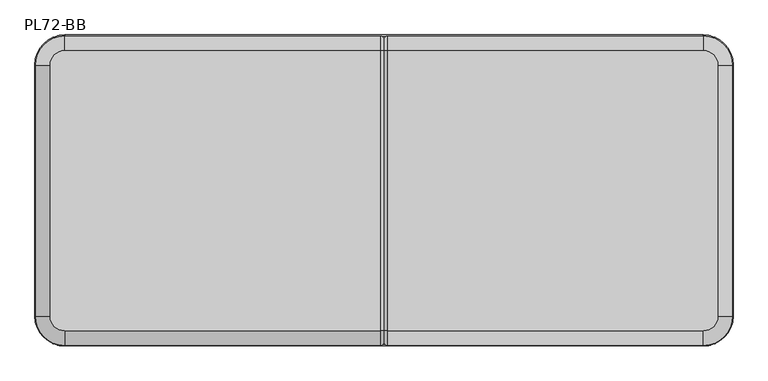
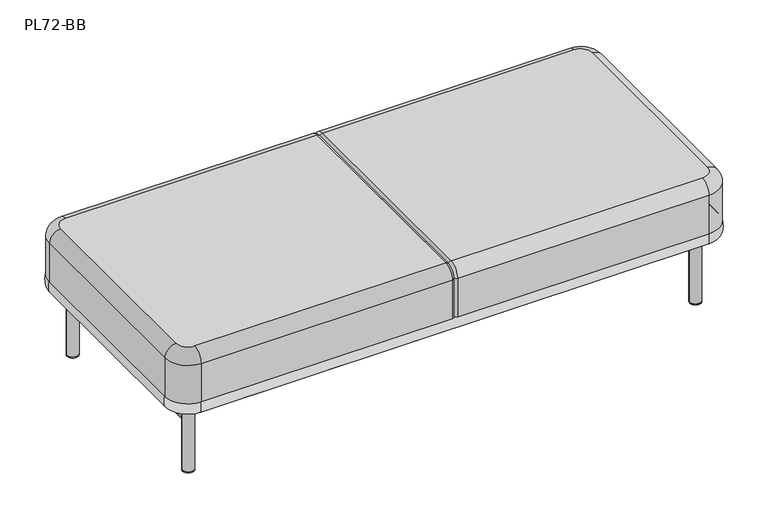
"""IFC4 building model written with IfcOpenShell, lengths in millimetres: furniture geometry, StanceHC-Podium-Lounge_Seating-72 : PL72-BB."""

from ifc_helpers import new_model, si_unit, point, frame, frame_2d, origin, origin_with_axes, place, context, project, spatial, polyline, circle_curve, ellipse_curve, trimmed, segment, composite_curve, outline, extrude, source, transform, mapped, element, save
from ifc_brep_helpers import plane_surface, cylinder_surface, revolved_surface, extruded_surface, advanced_brep


def pl72_bb_0ae3f5cb(model_context):
    return source(origin(), model_context, "Body", "SolidModel", [
        advanced_brep(
        [(1752.6, -812.8, 281.758409), (923.925, -812.8, 281.758409), (914.4, -803.275, 281.758409), (914.4, -11.1252, 281.758409), (923.925, -1.6002, 281.758409), (1752.6, -1.6002, 281.758409), (1828.8, -77.8002, 281.758409), (1828.8, -736.6, 281.758409), (1752.6, -39.7002, 453.3352811), (923.925, -39.7002, 453.3352811), (923.925, -774.7, 453.3352811), (1752.6, -774.7, 453.3352811), (1790.7, -736.6, 453.3352811), (1790.7, -77.8002, 453.3352811), (914.4, -803.275, 415.2352811), (914.4, -774.7, 443.8102811), (914.4, -39.7002, 443.8102811), (914.4, -11.1252, 415.2352811), (923.925, -1.6002, 415.2352811), (1752.6, -1.6002, 415.2352811), (1828.8, -77.8002, 415.2352811), (1828.8, -736.6, 415.2352811), (1752.6, -812.8, 415.2352811), (923.925, -812.8, 415.2352811)],
        [
            (0, 1),
            (1, 2, circle_curve(frame((923.925, -803.275, 281.758409), z_axis=(0.0, 0.0, -1.0), x_axis=(1.0, 0.0, 0.0)), 9.525)),
            (2, 3),
            (3, 4, circle_curve(frame((923.925, -11.1252, 281.758409), z_axis=(0.0, 0.0, -1.0), x_axis=(1.0, 0.0, 0.0)), 9.525)),
            (4, 5),
            (5, 6, circle_curve(frame((1752.6, -77.8002, 281.758409), z_axis=(0.0, 0.0, -1.0), x_axis=(0.0, 1.0, 0.0)), 76.2)),
            (6, 7),
            (7, 0, circle_curve(frame((1752.6, -736.6, 281.758409), z_axis=(0.0, 0.0, -1.0), x_axis=(1.0, 0.0, 0.0)), 76.2)),
            (8, 9),
            (9, 10),
            (10, 11),
            (11, 12, circle_curve(frame((1752.6, -736.6, 453.3352811), z_axis=(0.0, 0.0, 1.0), x_axis=(1.0, 0.0, 0.0)), 38.1)),
            (12, 13),
            (13, 8, circle_curve(frame((1752.6, -77.8002, 453.3352811), z_axis=(0.0, 0.0, 1.0), x_axis=(0.0, 1.0, 0.0)), 38.1)),
            (2, 14),
            (14, 15, circle_curve(frame((914.4, -774.7, 415.2352811), z_axis=(-1.0, 0.0, 0.0), x_axis=(0.0, -1.0, 1.2406627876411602e-12)), 28.575)),
            (15, 16),
            (16, 17, circle_curve(frame((914.4, -39.7002, 415.2352811), z_axis=(-1.0, 0.0, 0.0), x_axis=(0.0, 1.2558230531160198e-12, 1.0)), 28.575)),
            (17, 3),
            (4, 18),
            (18, 19),
            (19, 5),
            (19, 20, circle_curve(frame((1752.6, -77.8002, 415.2352811), z_axis=(0.0, 0.0, -1.0), x_axis=(0.0, 1.0, 0.0)), 76.2)),
            (20, 6),
            (20, 21),
            (21, 7),
            (21, 22, circle_curve(frame((1752.6, -736.6, 415.2352811), z_axis=(0.0, 0.0, -1.0), x_axis=(1.0, 0.0, 0.0)), 76.2)),
            (22, 0),
            (22, 23),
            (23, 1),
            (18, 9, circle_curve(frame((923.925, -39.7002, 415.2352811), z_axis=(1.0, 0.0, 0.0), x_axis=(0.0, -1.0, 0.0)), 38.1)),
            (8, 19, circle_curve(frame((1752.6, -39.7002, 415.2352811), z_axis=(-1.0, 0.0, 0.0), x_axis=(0.0, -1.0, 0.0)), 38.1)),
            (13, 20, circle_curve(frame((1790.7, -77.8002, 415.2352811), z_axis=(0.0, 1.0, 0.0), x_axis=(-1.0, 0.0, 0.0)), 38.1)),
            (12, 21, circle_curve(frame((1790.7, -736.6, 415.2352811), z_axis=(0.0, 1.0, 0.0), x_axis=(-1.0, 0.0, 0.0)), 38.1)),
            (11, 22, circle_curve(frame((1752.6, -774.7, 415.2352811), z_axis=(1.0, 0.0, 0.0), x_axis=(0.0, 1.0, 0.0)), 38.1)),
            (10, 23, circle_curve(frame((923.925, -774.7, 415.2352811), z_axis=(1.0, 0.0, 0.0), x_axis=(0.0, 1.0, 0.0)), 38.1)),
            (23, 14, circle_curve(frame((923.925, -803.275, 415.2352811), z_axis=(0.0, 0.0, -1.0), x_axis=(1.0, 0.0, 0.0)), 9.525)),
            (10, 15, circle_curve(frame((923.925, -774.7, 443.8102811), z_axis=(0.0, -1.0, -1.873351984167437e-12), x_axis=(1.0, 0.0, 0.0)), 9.525)),
            (9, 16, circle_curve(frame((923.925, -39.7002, 443.8102811), z_axis=(0.0, -1.0, 0.0), x_axis=(1.0, 0.0, 0.0)), 9.525)),
            (18, 17, circle_curve(frame((923.925, -11.1252, 415.2352811), z_axis=(0.0, -1.2542303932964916e-12, 1.0), x_axis=(1.0, 0.0, 0.0)), 9.525)),
        ],
        [
            plane_surface(frame((914.4, -39.7002, 281.758409), z_axis=(0.0, 0.0, -1.0), x_axis=(-1.0, 0.0, 0.0))),
            plane_surface(frame((914.4, -39.7002, 453.3352811), z_axis=(0.0, 0.0, 1.0), x_axis=(1.0, 0.0, 0.0))),
            plane_surface(frame((914.4, -39.7002, 281.758409), z_axis=(-1.0, 0.0, 0.0), x_axis=(0.0, 0.0, 1.0))),
            plane_surface(frame((914.4, -1.6002, 281.758409), z_axis=(0.0, 1.0, 0.0), x_axis=(1.0, 0.0, 0.0))),
            cylinder_surface(frame((1752.6, -77.8002, -0.257791), z_axis=(0.0, 0.0, 1.0), x_axis=(0.0, 1.0, 0.0)), 76.2),
            plane_surface(frame((1828.8, -77.8002, 281.758409), z_axis=(1.0, 0.0, 0.0), x_axis=(0.0, -1.0, 0.0))),
            cylinder_surface(frame((1752.6, -736.6, -0.257791), z_axis=(0.0, 0.0, 1.0), x_axis=(1.0, 0.0, 0.0)), 76.2),
            plane_surface(frame((1752.6, -812.8, 281.758409), z_axis=(0.0, -1.0, 0.0), x_axis=(-1.0, 0.0, 0.0))),
            cylinder_surface(frame((914.4, -39.7002, 415.2352811), z_axis=(-1.0, 0.0, 0.0), x_axis=(0.0, -1.0, 0.0)), 38.1),
            revolved_surface(trimmed(ellipse_curve(frame((1752.6, -39.7002, 415.2352811), z_axis=(1.0, 0.0, 0.0), x_axis=(0.0, -1.0, 0.0)), 38.1, 38.1), [point((1752.6, -1.6002, 415.2352811))], [point((1752.6, -39.7002, 453.3352811))], True, "CARTESIAN"), (1752.6, -77.8002, -0.257791), (0.0, 0.0, 1.0)),
            cylinder_surface(frame((1790.7, -77.8002, 415.2352811), z_axis=(0.0, 1.0, 0.0), x_axis=(-1.0, 0.0, 0.0)), 38.1),
            revolved_surface(trimmed(ellipse_curve(frame((1790.7, -736.6, 415.2352811), z_axis=(0.0, -1.0, 0.0), x_axis=(-1.0, 0.0, 0.0)), 38.1, 38.1), [point((1828.8, -736.6, 415.2352811))], [point((1790.7, -736.6, 453.3352811))], True, "CARTESIAN"), (1752.6, -736.6, -0.257791), (0.0, 0.0, 1.0)),
            cylinder_surface(frame((1752.6, -774.7, 415.2352811), z_axis=(1.0, 0.0, 0.0), x_axis=(0.0, 1.0, 0.0)), 38.1),
            cylinder_surface(frame((923.925, -803.275, 281.758409), z_axis=(0.0, 0.0, 1.0), x_axis=(1.0, 0.0, 0.0)), 9.525),
            revolved_surface(trimmed(ellipse_curve(frame((923.925, -803.275, 415.2352811), z_axis=(0.0, 1.24066278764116e-12, 1.0), x_axis=(1.0, 0.0, 0.0)), 9.525, 9.525), [point((914.4, -803.275, 415.2352811))], [point((923.925, -812.8, 415.2352811))], True, "CARTESIAN"), (914.4, -774.7, 415.2352811), (1.0, 0.0, 0.0)),
            cylinder_surface(frame((923.925, -774.7, 443.8102811), z_axis=(0.0, 1.0, 0.0), x_axis=(1.0, 0.0, 0.0)), 9.525),
            revolved_surface(trimmed(ellipse_curve(frame((923.925, -39.7002, 443.8102811), z_axis=(0.0, 1.0, -1.2558230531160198e-12), x_axis=(1.0, 0.0, 0.0)), 9.525, 9.525), [point((914.4, -39.7002, 443.8102811))], [point((923.925, -39.7002, 453.3352811))], True, "CARTESIAN"), (914.4, -39.7002, 415.2352811), (1.0, 0.0, 0.0)),
            cylinder_surface(frame((923.925, -11.1252, 415.2352811), z_axis=(0.0, 0.0, -1.0), x_axis=(1.0, 0.0, 0.0)), 9.525),
        ],
        [
            (0, [[1, 2, 3, 4, 5, 6, 7, 8]]),
            (1, [[9, 10, 11, 12, 13, 14]]),
            (2, [[15, 16, 17, 18, 19, -3]]),
            (3, [[-5, 20, 21, 22]]),
            (4, [[-22, 23, 24, -6]]),
            (5, [[-24, 25, 26, -7]]),
            (6, [[-26, 27, 28, -8]]),
            (7, [[29, 30, -1, -28]]),
            (8, [[-21, 31, -9, 32]]),
            (9, [[-32, -14, 33, -23]]),
            (10, [[-33, -13, 34, -25]]),
            (11, [[-34, -12, 35, -27]]),
            (12, [[-11, 36, -29, -35]]),
            (13, [[-15, -2, -30, 37]]),
            (14, [[-36, 38, -16, -37]]),
            (15, [[-10, 39, -17, -38]]),
            (16, [[-31, 40, -18, -39]]),
            (17, [[-20, -4, -19, -40]]),
        ],
    ),
        extrude(outline(composite_curve([segment(polyline([(866.775, -441.325), (866.775, -371.475)]), True, "CONTINUOUS"), segment(trimmed(circle_curve(frame_2d((879.475, -371.475)), 12.7), [point((866.775, -371.475))], [point((879.475, -358.775))], False, "CARTESIAN"), True, "CONTINUOUS"), segment(polyline([(879.475, -358.775), (949.325, -358.775)]), True, "CONTINUOUS"), segment(trimmed(circle_curve(frame_2d((949.325, -371.475)), 12.7), [point((949.325, -358.775))], [point((962.025, -371.475))], False, "CARTESIAN"), True, "CONTINUOUS"), segment(polyline([(962.025, -371.475), (962.025, -441.325)]), True, "CONTINUOUS"), segment(trimmed(circle_curve(frame_2d((949.325, -441.325)), 12.7), [point((962.025, -441.325))], [point((949.325, -454.025))], False, "CARTESIAN"), True, "CONTINUOUS"), segment(polyline([(949.325, -454.025), (879.475, -454.025)]), True, "CONTINUOUS"), segment(trimmed(circle_curve(frame_2d((879.475, -441.325)), 12.7), [point((879.475, -454.025))], [point((866.775, -441.325))], False, "CARTESIAN"), True, "CONTINUOUS")], self_intersect=False)), frame((0.0, 0.0, 240.7285), z_axis=(0.0, 0.0, 1.0), x_axis=(1.0, 0.0, 0.0)), (0.0, 0.0, 1.0), 4.7625),
        extrude(outline(composite_curve([segment(trimmed(circle_curve(frame_2d((914.4, -406.4)), 19.05), [point((895.35, -406.4))], [point((933.45, -406.4))], False, "CARTESIAN"), True, "CONTINUOUS"), segment(trimmed(circle_curve(frame_2d((914.4, -406.4)), 19.05), [point((933.45, -406.4))], [point((895.35, -406.4))], False, "CARTESIAN"), True, "CONTINUOUS")], self_intersect=False)), frame((0.0, 0.0, 4.191), z_axis=(0.0, 0.0, 1.0), x_axis=(1.0, 0.0, 0.0)), (0.0, 0.0, 1.0), 236.5375),
        extrude(outline(composite_curve([segment(trimmed(circle_curve(frame_2d((914.4, -406.4)), 19.05), [point((895.35, -406.4))], [point((933.45, -406.4))], False, "CARTESIAN"), True, "CONTINUOUS"), segment(trimmed(circle_curve(frame_2d((914.4, -406.4)), 19.05), [point((933.45, -406.4))], [point((895.35, -406.4))], False, "CARTESIAN"), True, "CONTINUOUS")], self_intersect=False)), origin_with_axes(), (0.0, 0.0, 1.0), 4.191),
        extrude(outline(composite_curve([segment(polyline([(1703.3875, -771.525), (1703.3875, -701.675)]), True, "CONTINUOUS"), segment(trimmed(circle_curve(frame_2d((1716.0875, -701.675)), 12.7), [point((1703.3875, -701.675))], [point((1716.0875, -688.975))], False, "CARTESIAN"), True, "CONTINUOUS"), segment(polyline([(1716.0875, -688.975), (1785.9375, -688.975)]), True, "CONTINUOUS"), segment(trimmed(circle_curve(frame_2d((1785.9375, -701.675)), 12.7), [point((1785.9375, -688.975))], [point((1798.6375, -701.675))], False, "CARTESIAN"), True, "CONTINUOUS"), segment(polyline([(1798.6375, -701.675), (1798.6375, -771.525)]), True, "CONTINUOUS"), segment(trimmed(circle_curve(frame_2d((1785.9375, -771.525)), 12.7), [point((1798.6375, -771.525))], [point((1785.9375, -784.225))], False, "CARTESIAN"), True, "CONTINUOUS"), segment(polyline([(1785.9375, -784.225), (1716.0875, -784.225)]), True, "CONTINUOUS"), segment(trimmed(circle_curve(frame_2d((1716.0875, -771.525)), 12.7), [point((1716.0875, -784.225))], [point((1703.3875, -771.525))], False, "CARTESIAN"), True, "CONTINUOUS")], self_intersect=False)), frame((0.0, 0.0, 240.7285), z_axis=(0.0, 0.0, 1.0), x_axis=(1.0, 0.0, 0.0)), (0.0, 0.0, 1.0), 4.7625),
        extrude(outline(composite_curve([segment(trimmed(circle_curve(frame_2d((1751.0125, -736.6)), 19.05), [point((1731.9625, -736.6))], [point((1770.0625, -736.6))], False, "CARTESIAN"), True, "CONTINUOUS"), segment(trimmed(circle_curve(frame_2d((1751.0125, -736.6)), 19.05), [point((1770.0625, -736.6))], [point((1731.9625, -736.6))], False, "CARTESIAN"), True, "CONTINUOUS")], self_intersect=False)), frame((0.0, 0.0, 4.191), z_axis=(0.0, 0.0, 1.0), x_axis=(1.0, 0.0, 0.0)), (0.0, 0.0, 1.0), 236.5375),
        extrude(outline(composite_curve([segment(trimmed(circle_curve(frame_2d((1751.0125, -736.6)), 19.05), [point((1731.9625, -736.6))], [point((1770.0625, -736.6))], False, "CARTESIAN"), True, "CONTINUOUS"), segment(trimmed(circle_curve(frame_2d((1751.0125, -736.6)), 19.05), [point((1770.0625, -736.6))], [point((1731.9625, -736.6))], False, "CARTESIAN"), True, "CONTINUOUS")], self_intersect=False)), origin_with_axes(), (0.0, 0.0, 1.0), 4.191),
        extrude(outline(composite_curve([segment(polyline([(1703.3875, -111.125), (1703.3875, -41.275)]), True, "CONTINUOUS"), segment(trimmed(circle_curve(frame_2d((1716.0875, -41.275)), 12.7), [point((1703.3875, -41.275))], [point((1716.0875, -28.575))], False, "CARTESIAN"), True, "CONTINUOUS"), segment(polyline([(1716.0875, -28.575), (1785.9375, -28.575)]), True, "CONTINUOUS"), segment(trimmed(circle_curve(frame_2d((1785.9375, -41.275)), 12.7), [point((1785.9375, -28.575))], [point((1798.6375, -41.275))], False, "CARTESIAN"), True, "CONTINUOUS"), segment(polyline([(1798.6375, -41.275), (1798.6375, -111.125)]), True, "CONTINUOUS"), segment(trimmed(circle_curve(frame_2d((1785.9375, -111.125)), 12.7), [point((1798.6375, -111.125))], [point((1785.9375, -123.825))], False, "CARTESIAN"), True, "CONTINUOUS"), segment(polyline([(1785.9375, -123.825), (1716.0875, -123.825)]), True, "CONTINUOUS"), segment(trimmed(circle_curve(frame_2d((1716.0875, -111.125)), 12.7), [point((1716.0875, -123.825))], [point((1703.3875, -111.125))], False, "CARTESIAN"), True, "CONTINUOUS")], self_intersect=False)), frame((0.0, 0.0, 240.7285), z_axis=(0.0, 0.0, 1.0), x_axis=(1.0, 0.0, 0.0)), (0.0, 0.0, 1.0), 4.7625),
        extrude(outline(composite_curve([segment(trimmed(circle_curve(frame_2d((1751.0125, -76.2)), 19.05), [point((1731.9625, -76.2))], [point((1770.0625, -76.2))], False, "CARTESIAN"), True, "CONTINUOUS"), segment(trimmed(circle_curve(frame_2d((1751.0125, -76.2)), 19.05), [point((1770.0625, -76.2))], [point((1731.9625, -76.2))], False, "CARTESIAN"), True, "CONTINUOUS")], self_intersect=False)), frame((0.0, 0.0, 4.191), z_axis=(0.0, 0.0, 1.0), x_axis=(1.0, 0.0, 0.0)), (0.0, 0.0, 1.0), 236.5375),
        extrude(outline(composite_curve([segment(trimmed(circle_curve(frame_2d((1751.0125, -76.2)), 19.05), [point((1731.9625, -76.2))], [point((1770.0625, -76.2))], False, "CARTESIAN"), True, "CONTINUOUS"), segment(trimmed(circle_curve(frame_2d((1751.0125, -76.2)), 19.05), [point((1770.0625, -76.2))], [point((1731.9625, -76.2))], False, "CARTESIAN"), True, "CONTINUOUS")], self_intersect=False)), origin_with_axes(), (0.0, 0.0, 1.0), 4.191),
        extrude(outline(composite_curve([segment(polyline([(30.1625, -771.525), (30.1625, -701.675)]), True, "CONTINUOUS"), segment(trimmed(circle_curve(frame_2d((42.8625, -701.675)), 12.7), [point((30.1625, -701.675))], [point((42.8625, -688.975))], False, "CARTESIAN"), True, "CONTINUOUS"), segment(polyline([(42.8625, -688.975), (112.7125, -688.975)]), True, "CONTINUOUS"), segment(trimmed(circle_curve(frame_2d((112.7125, -701.675)), 12.7), [point((112.7125, -688.975))], [point((125.4125, -701.675))], False, "CARTESIAN"), True, "CONTINUOUS"), segment(polyline([(125.4125, -701.675), (125.4125, -771.525)]), True, "CONTINUOUS"), segment(trimmed(circle_curve(frame_2d((112.7125, -771.525)), 12.7), [point((125.4125, -771.525))], [point((112.7125, -784.225))], False, "CARTESIAN"), True, "CONTINUOUS"), segment(polyline([(112.7125, -784.225), (42.8625, -784.225)]), True, "CONTINUOUS"), segment(trimmed(circle_curve(frame_2d((42.8625, -771.525)), 12.7), [point((42.8625, -784.225))], [point((30.1625, -771.525))], False, "CARTESIAN"), True, "CONTINUOUS")], self_intersect=False)), frame((0.0, 0.0, 240.7285), z_axis=(0.0, 0.0, 1.0), x_axis=(1.0, 0.0, 0.0)), (0.0, 0.0, 1.0), 4.7625),
        extrude(outline(composite_curve([segment(trimmed(circle_curve(frame_2d((77.7875, -736.6)), 19.05), [point((58.7375, -736.6))], [point((96.8375, -736.6))], False, "CARTESIAN"), True, "CONTINUOUS"), segment(trimmed(circle_curve(frame_2d((77.7875, -736.6)), 19.05), [point((96.8375, -736.6))], [point((58.7375, -736.6))], False, "CARTESIAN"), True, "CONTINUOUS")], self_intersect=False)), frame((0.0, 0.0, 4.191), z_axis=(0.0, 0.0, 1.0), x_axis=(1.0, 0.0, 0.0)), (0.0, 0.0, 1.0), 236.5375),
        extrude(outline(composite_curve([segment(trimmed(circle_curve(frame_2d((77.7875, -736.6)), 19.05), [point((58.7375, -736.6))], [point((96.8375, -736.6))], False, "CARTESIAN"), True, "CONTINUOUS"), segment(trimmed(circle_curve(frame_2d((77.7875, -736.6)), 19.05), [point((96.8375, -736.6))], [point((58.7375, -736.6))], False, "CARTESIAN"), True, "CONTINUOUS")], self_intersect=False)), origin_with_axes(), (0.0, 0.0, 1.0), 4.191),
        extrude(outline(composite_curve([segment(polyline([(30.1625, -111.125), (30.1625, -41.275)]), True, "CONTINUOUS"), segment(trimmed(circle_curve(frame_2d((42.8625, -41.275)), 12.7), [point((30.1625, -41.275))], [point((42.8625, -28.575))], False, "CARTESIAN"), True, "CONTINUOUS"), segment(polyline([(42.8625, -28.575), (112.7125, -28.575)]), True, "CONTINUOUS"), segment(trimmed(circle_curve(frame_2d((112.7125, -41.275)), 12.7), [point((112.7125, -28.575))], [point((125.4125, -41.275))], False, "CARTESIAN"), True, "CONTINUOUS"), segment(polyline([(125.4125, -41.275), (125.4125, -111.125)]), True, "CONTINUOUS"), segment(trimmed(circle_curve(frame_2d((112.7125, -111.125)), 12.7), [point((125.4125, -111.125))], [point((112.7125, -123.825))], False, "CARTESIAN"), True, "CONTINUOUS"), segment(polyline([(112.7125, -123.825), (42.8625, -123.825)]), True, "CONTINUOUS"), segment(trimmed(circle_curve(frame_2d((42.8625, -111.125)), 12.7), [point((42.8625, -123.825))], [point((30.1625, -111.125))], False, "CARTESIAN"), True, "CONTINUOUS")], self_intersect=False)), frame((0.0, 0.0, 240.7285), z_axis=(0.0, 0.0, 1.0), x_axis=(1.0, 0.0, 0.0)), (0.0, 0.0, 1.0), 4.7625),
        extrude(outline(composite_curve([segment(trimmed(circle_curve(frame_2d((77.7875, -76.2)), 19.05), [point((58.7375, -76.2))], [point((96.8375, -76.2))], False, "CARTESIAN"), True, "CONTINUOUS"), segment(trimmed(circle_curve(frame_2d((77.7875, -76.2)), 19.05), [point((96.8375, -76.2))], [point((58.7375, -76.2))], False, "CARTESIAN"), True, "CONTINUOUS")], self_intersect=False)), frame((0.0, 0.0, 4.191), z_axis=(0.0, 0.0, 1.0), x_axis=(1.0, 0.0, 0.0)), (0.0, 0.0, 1.0), 236.5375),
        extrude(outline(composite_curve([segment(trimmed(circle_curve(frame_2d((77.7875, -76.2)), 19.05), [point((58.7375, -76.2))], [point((96.8375, -76.2))], False, "CARTESIAN"), True, "CONTINUOUS"), segment(trimmed(circle_curve(frame_2d((77.7875, -76.2)), 19.05), [point((96.8375, -76.2))], [point((58.7375, -76.2))], False, "CARTESIAN"), True, "CONTINUOUS")], self_intersect=False)), origin_with_axes(), (0.0, 0.0, 1.0), 4.191),
        advanced_brep(
        [(76.2, -812.8, 281.758409), (0.0, -736.6, 281.758409), (0.0, -77.8002, 281.758409), (76.2, -1.6002, 281.758409), (904.875, -1.6002, 281.758409), (914.4, -11.1252, 281.758409), (914.4, -803.275, 281.758409), (904.875, -812.8, 281.758409), (76.2, -39.7002, 453.3352811), (38.1, -77.8002, 453.3352811), (38.1, -736.6, 453.3352811), (76.2, -774.7, 453.3352811), (904.875, -774.7, 453.3352811), (904.875, -39.7002, 453.3352811), (914.4, -11.1252, 415.2352811), (914.4, -39.7002, 443.8102811), (914.4, -774.7, 443.8102811), (914.4, -803.275, 415.2352811), (76.2, -1.6002, 415.2352811), (904.875, -1.6002, 415.2352811), (0.0, -77.8002, 415.2352811), (0.0, -736.6, 415.2352811), (76.2, -812.8, 415.2352811), (904.875, -812.8, 415.2352811)],
        [
            (0, 1, circle_curve(frame((76.2, -736.6, 281.758409), z_axis=(0.0, 0.0, -1.0), x_axis=(-1.0, 0.0, 0.0)), 76.2)),
            (1, 2),
            (2, 3, circle_curve(frame((76.2, -77.8002, 281.758409), z_axis=(0.0, 0.0, -1.0), x_axis=(0.0, 1.0, 0.0)), 76.2)),
            (3, 4),
            (4, 5, circle_curve(frame((904.875, -11.1252, 281.758409), z_axis=(0.0, 0.0, -1.0), x_axis=(-1.0, 0.0, 0.0)), 9.525)),
            (5, 6),
            (6, 7, circle_curve(frame((904.875, -803.275, 281.758409), z_axis=(0.0, 0.0, -1.0), x_axis=(-1.0, 0.0, 0.0)), 9.525)),
            (7, 0),
            (8, 9, circle_curve(frame((76.2, -77.8002, 453.3352811), z_axis=(0.0, 0.0, 1.0), x_axis=(0.0, 1.0, 0.0)), 38.1)),
            (9, 10),
            (10, 11, circle_curve(frame((76.2, -736.6, 453.3352811), z_axis=(0.0, 0.0, 1.0), x_axis=(-1.0, 0.0, 0.0)), 38.1)),
            (11, 12),
            (12, 13),
            (13, 8),
            (5, 14),
            (14, 15, circle_curve(frame((914.4, -39.7002, 415.2352811), z_axis=(1.0, 0.0, 0.0), x_axis=(0.0, 1.2558230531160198e-12, 1.0)), 28.575)),
            (15, 16),
            (16, 17, circle_curve(frame((914.4, -774.7, 415.2352811), z_axis=(1.0, 0.0, 0.0), x_axis=(0.0, -1.0, 1.2406627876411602e-12)), 28.575)),
            (17, 6),
            (3, 18),
            (18, 19),
            (19, 4),
            (2, 20),
            (20, 18, circle_curve(frame((76.2, -77.8002, 415.2352811), z_axis=(0.0, 0.0, -1.0), x_axis=(0.0, 1.0, 0.0)), 76.2)),
            (1, 21),
            (21, 20),
            (0, 22),
            (22, 21, circle_curve(frame((76.2, -736.6, 415.2352811), z_axis=(0.0, 0.0, -1.0), x_axis=(-1.0, 0.0, 0.0)), 76.2)),
            (7, 23),
            (23, 22),
            (18, 8, circle_curve(frame((76.2, -39.7002, 415.2352811), z_axis=(1.0, 0.0, 0.0), x_axis=(0.0, -1.0, 0.0)), 38.1)),
            (13, 19, circle_curve(frame((904.875, -39.7002, 415.2352811), z_axis=(-1.0, 0.0, 0.0), x_axis=(0.0, -1.0, 0.0)), 38.1)),
            (20, 9, circle_curve(frame((38.1, -77.8002, 415.2352811), z_axis=(0.0, 1.0, 0.0), x_axis=(1.0, 0.0, 0.0)), 38.1)),
            (21, 10, circle_curve(frame((38.1, -736.6, 415.2352811), z_axis=(0.0, 1.0, 0.0), x_axis=(1.0, 0.0, 0.0)), 38.1)),
            (22, 11, circle_curve(frame((76.2, -774.7, 415.2352811), z_axis=(-1.0, 0.0, 0.0), x_axis=(0.0, 1.0, 0.0)), 38.1)),
            (23, 12, circle_curve(frame((904.875, -774.7, 415.2352811), z_axis=(-1.0, 0.0, 0.0), x_axis=(0.0, 1.0, 0.0)), 38.1)),
            (17, 23, circle_curve(frame((904.875, -803.275, 415.2352811), z_axis=(0.0, 0.0, -1.0), x_axis=(-1.0, 0.0, 0.0)), 9.525)),
            (16, 12, circle_curve(frame((904.875, -774.7, 443.8102811), z_axis=(0.0, -1.0, -2.0763007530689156e-12), x_axis=(-1.0, 0.0, 0.0)), 9.525)),
            (15, 13, circle_curve(frame((904.875, -39.7002, 443.8102811), z_axis=(0.0, -1.0, 0.0), x_axis=(-1.0, 0.0, 0.0)), 9.525)),
            (14, 19, circle_curve(frame((904.875, -11.1252, 415.2352811), z_axis=(0.0, -1.257116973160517e-12, 1.0), x_axis=(-1.0, 0.0, 0.0)), 9.525)),
        ],
        [
            plane_surface(frame((914.4, -39.7002, 281.758409), z_axis=(0.0, 0.0, -1.0), x_axis=(1.0, 0.0, 0.0))),
            plane_surface(frame((914.4, -39.7002, 453.3352811), z_axis=(0.0, 0.0, 1.0), x_axis=(-1.0, 0.0, 0.0))),
            plane_surface(frame((914.4, -39.7002, 281.758409), z_axis=(1.0, 0.0, 0.0), x_axis=(0.0, 0.0, 1.0))),
            plane_surface(frame((914.4, -1.6002, 281.758409), z_axis=(0.0, 1.0, 0.0), x_axis=(-1.0, 0.0, 0.0))),
            cylinder_surface(frame((76.2, -77.8002, -0.257791), z_axis=(0.0, 0.0, 1.0), x_axis=(0.0, 1.0, 0.0)), 76.2),
            plane_surface(frame((0.0, -77.8002, 281.758409), z_axis=(-1.0, 0.0, 0.0), x_axis=(0.0, -1.0, 0.0))),
            cylinder_surface(frame((76.2, -736.6, -0.257791), z_axis=(0.0, 0.0, 1.0), x_axis=(-1.0, 0.0, 0.0)), 76.2),
            plane_surface(frame((76.2, -812.8, 281.758409), z_axis=(0.0, -1.0, 0.0), x_axis=(1.0, 0.0, 0.0))),
            cylinder_surface(frame((914.4, -39.7002, 415.2352811), z_axis=(1.0, 0.0, 0.0), x_axis=(0.0, -1.0, 0.0)), 38.1),
            revolved_surface(trimmed(ellipse_curve(frame((76.2, -39.7002, 415.2352811), z_axis=(1.0, 0.0, 0.0), x_axis=(0.0, -1.0, 0.0)), 38.1, 38.1), [point((76.2, -1.6002, 415.2352811))], [point((76.2, -39.7002, 453.3352811))], True, "CARTESIAN"), (76.2, -77.8002, -0.257791), (0.0, 0.0, 1.0)),
            cylinder_surface(frame((38.1, -77.8002, 415.2352811), z_axis=(0.0, 1.0, 0.0), x_axis=(1.0, 0.0, 0.0)), 38.1),
            revolved_surface(trimmed(ellipse_curve(frame((38.1, -736.6, 415.2352811), z_axis=(0.0, 1.0, 0.0), x_axis=(1.0, 0.0, 0.0)), 38.1, 38.1), [point((0.0, -736.6, 415.2352811))], [point((38.1, -736.6, 453.3352811))], True, "CARTESIAN"), (76.2, -736.6, -0.257791), (0.0, 0.0, 1.0)),
            cylinder_surface(frame((76.2, -774.7, 415.2352811), z_axis=(-1.0, 0.0, 0.0), x_axis=(0.0, 1.0, 0.0)), 38.1),
            cylinder_surface(frame((904.875, -803.275, 281.758409), z_axis=(0.0, 0.0, 1.0), x_axis=(-1.0, 0.0, 0.0)), 9.525),
            revolved_surface(trimmed(ellipse_curve(frame((904.875, -803.275, 415.2352811), z_axis=(0.0, -1.24066278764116e-12, -1.0), x_axis=(-1.0, 0.0, 0.0)), 9.525, 9.525), [point((914.4, -803.275, 415.2352811))], [point((904.875, -812.8, 415.2352811))], True, "CARTESIAN"), (914.4, -774.7, 415.2352811), (-1.0, 0.0, 0.0)),
            cylinder_surface(frame((904.875, -774.7, 443.8102811), z_axis=(0.0, 1.0, 0.0), x_axis=(-1.0, 0.0, 0.0)), 9.525),
            revolved_surface(trimmed(ellipse_curve(frame((904.875, -39.7002, 443.8102811), z_axis=(0.0, -1.0, 1.2558230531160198e-12), x_axis=(-1.0, 0.0, 0.0)), 9.525, 9.525), [point((914.4, -39.7002, 443.8102811))], [point((904.875, -39.7002, 453.3352811))], True, "CARTESIAN"), (914.4, -39.7002, 415.2352811), (-1.0, 0.0, 0.0)),
            cylinder_surface(frame((904.875, -11.1252, 415.2352811), z_axis=(0.0, 0.0, -1.0), x_axis=(-1.0, 0.0, 0.0)), 9.525),
        ],
        [
            (0, [[1, 2, 3, 4, 5, 6, 7, 8]]),
            (1, [[9, 10, 11, 12, 13, 14]]),
            (2, [[-6, 15, 16, 17, 18, 19]]),
            (3, [[20, 21, 22, -4]]),
            (4, [[-3, 23, 24, -20]]),
            (5, [[-2, 25, 26, -23]]),
            (6, [[-1, 27, 28, -25]]),
            (7, [[-27, -8, 29, 30]]),
            (8, [[31, -14, 32, -21]]),
            (9, [[-24, 33, -9, -31]]),
            (10, [[-26, 34, -10, -33]]),
            (11, [[-28, 35, -11, -34]]),
            (12, [[-35, -30, 36, -12]]),
            (13, [[37, -29, -7, -19]]),
            (14, [[-37, -18, 38, -36]]),
            (15, [[-38, -17, 39, -13]]),
            (16, [[-39, -16, 40, -32]]),
            (17, [[-40, -15, -5, -22]]),
        ],
    ),
        extrude(outline(composite_curve([segment(trimmed(circle_curve(frame_2d((169.0530169, 77.7875)), 9.525), [point((169.0530169, 68.2625))], [point((169.0530169, 87.3125))], False, "CARTESIAN"), True, "CONTINUOUS"), segment(trimmed(circle_curve(frame_2d((169.0530169, 77.7875)), 9.525), [point((169.0530169, 87.3125))], [point((169.0530169, 68.2625))], False, "CARTESIAN"), True, "CONTINUOUS")], self_intersect=False)), frame((0.0, -723.9, 0.0), z_axis=(0.0, 1.0, 0.0), x_axis=(0.0, 0.0, 1.0)), (0.0, 0.0, 1.0), 635.0),
        extrude(outline(composite_curve([segment(trimmed(circle_curve(frame_2d((169.0530169, 1751.0125)), 9.525), [point((169.0530169, 1741.4875))], [point((169.0530169, 1760.5375))], False, "CARTESIAN"), True, "CONTINUOUS"), segment(trimmed(circle_curve(frame_2d((169.0530169, 1751.0125)), 9.525), [point((169.0530169, 1760.5375))], [point((169.0530169, 1741.4875))], False, "CARTESIAN"), True, "CONTINUOUS")], self_intersect=False)), frame((0.0, -723.9, 0.0), z_axis=(0.0, 1.0, 0.0), x_axis=(0.0, 0.0, 1.0)), (0.0, 0.0, 1.0), 635.0),
        extrude(outline(composite_curve([segment(polyline([(76.2, -3.175), (1752.6, -3.175)]), True, "CONTINUOUS"), segment(trimmed(circle_curve(frame_2d((1752.6, -76.2)), 73.025), [point((1752.6, -3.175))], [point((1825.625, -76.2))], False, "CARTESIAN"), True, "CONTINUOUS"), segment(polyline([(1825.625, -76.2), (1825.625, -736.6)]), True, "CONTINUOUS"), segment(trimmed(circle_curve(frame_2d((1752.6, -736.6)), 73.025), [point((1825.625, -736.6))], [point((1752.6, -809.625))], False, "CARTESIAN"), True, "CONTINUOUS"), segment(polyline([(1752.6, -809.625), (76.2, -809.625)]), True, "CONTINUOUS"), segment(trimmed(circle_curve(frame_2d((76.2, -736.6)), 73.025), [point((76.2, -809.625))], [point((3.175, -736.6))], False, "CARTESIAN"), True, "CONTINUOUS"), segment(polyline([(3.175, -736.6), (3.175, -76.2)]), True, "CONTINUOUS"), segment(trimmed(circle_curve(frame_2d((76.2, -76.2)), 73.025), [point((3.175, -76.2))], [point((76.2, -3.175))], False, "CARTESIAN"), True, "CONTINUOUS")], self_intersect=False)), frame((0.0, 0.0, 244.173991), z_axis=(0.0, 0.0, 1.0), x_axis=(1.0, 0.0, 0.0)), (0.0, 0.0, 1.0), 37.5844179),
        advanced_brep(
        [(1825.625, -76.2, 281.758409), (1752.6, -3.175, 281.758409), (1752.6, -3.175, 244.173991), (1825.625, -76.2, 244.173991), (1825.625, -736.6, 244.173991), (1825.625, -736.6, 281.758409), (1752.6, -809.625, 281.758409), (1752.6, -809.625, 244.173991), (76.2, -809.625, 244.173991), (76.2, -809.625, 281.758409), (3.175, -736.6, 281.758409), (3.175, -736.6, 244.173991), (3.175, -76.2, 244.173991), (3.175, -76.2, 281.758409), (76.2, -3.175, 281.758409), (76.2, -3.175, 244.173991)],
        [
            (0, 1, circle_curve(frame((1752.6, -76.2, 281.758409), z_axis=(0.0, 0.0, 1.0), x_axis=(0.0, 1.0, 0.0)), 73.025)),
            (1, 2),
            (2, 3, circle_curve(frame((1752.6, -76.2, 244.173991), z_axis=(0.0, 0.0, -1.0), x_axis=(0.0, 1.0, 0.0)), 73.025)),
            (3, 0),
            (2, 1, ellipse_curve(frame((1752.6, -3.175, 262.9662), z_axis=(1.0, 0.0, 0.0), x_axis=(0.0, 0.0, 1.0)), 18.792209, 4.8860427)),
            (0, 3, ellipse_curve(frame((1825.625, -76.2, 262.9662), z_axis=(0.0, 1.0, 0.0), x_axis=(0.0, 0.0, 1.0)), 18.792209, 4.8860427)),
            (3, 4),
            (4, 5),
            (5, 0),
            (5, 4, ellipse_curve(frame((1825.625, -736.6, 262.9662), z_axis=(0.0, 1.0, 0.0), x_axis=(0.0, 0.0, 1.0)), 18.792209, 4.8860427)),
            (6, 5, circle_curve(frame((1752.6, -736.6, 281.758409), z_axis=(0.0, 0.0, 1.0), x_axis=(1.0, 0.0, 0.0)), 73.025)),
            (4, 7, circle_curve(frame((1752.6, -736.6, 244.173991), z_axis=(0.0, 0.0, -1.0), x_axis=(1.0, 0.0, 0.0)), 73.025)),
            (7, 6),
            (6, 7, ellipse_curve(frame((1752.6, -809.625, 262.9662), z_axis=(1.0, 0.0, 0.0), x_axis=(0.0, 0.0, 1.0)), 18.792209, 4.8860427)),
            (7, 8),
            (8, 9),
            (9, 6),
            (9, 8, ellipse_curve(frame((76.2, -809.625, 262.9662), z_axis=(1.0, 0.0, 0.0), x_axis=(0.0, 0.0, 1.0)), 18.792209, 4.8860427)),
            (10, 9, circle_curve(frame((76.2, -736.6, 281.758409), z_axis=(0.0, 0.0, 1.0), x_axis=(0.0, -1.0, 0.0)), 73.025)),
            (8, 11, circle_curve(frame((76.2, -736.6, 244.173991), z_axis=(0.0, 0.0, -1.0), x_axis=(0.0, -1.0, 0.0)), 73.025)),
            (11, 10),
            (10, 11, ellipse_curve(frame((3.175, -736.6, 262.9662), z_axis=(0.0, -1.0, 0.0), x_axis=(0.0, 0.0, 1.0)), 18.792209, 4.8860427)),
            (11, 12),
            (12, 13),
            (13, 10),
            (13, 12, ellipse_curve(frame((3.175, -76.2, 262.9662), z_axis=(0.0, -1.0, 0.0), x_axis=(0.0, 0.0, 1.0)), 18.792209, 4.8860427)),
            (14, 13, circle_curve(frame((76.2, -76.2, 281.758409), z_axis=(0.0, 0.0, 1.0), x_axis=(-1.0, 0.0, 0.0)), 73.025)),
            (12, 15, circle_curve(frame((76.2, -76.2, 244.173991), z_axis=(0.0, 0.0, -1.0), x_axis=(-1.0, 0.0, 0.0)), 73.025)),
            (15, 14),
            (14, 15, ellipse_curve(frame((76.2, -3.175, 262.9662), z_axis=(-1.0, 0.0, 0.0), x_axis=(0.0, 0.0, 1.0)), 18.792209, 4.8860427)),
            (15, 2),
            (1, 14),
        ],
        [
            revolved_surface(polyline([(1752.6, -3.174999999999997, 244.173991), (1752.6, -3.174999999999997, 281.758409)]), (1752.6, -76.2, 244.173991), (0.0, 0.0, -1.0)),
            revolved_surface(trimmed(ellipse_curve(frame((1752.6, -3.175, 262.9662), z_axis=(-1.0, 0.0, 0.0), x_axis=(0.0, 0.0, 1.0)), 18.792209, 4.8860427), [point((1752.6, -3.175, 281.758409))], [point((1752.6, -3.175, 244.173991))], True, "CARTESIAN"), (1752.6, -76.2, 244.173991), (0.0, 0.0, -1.0)),
            plane_surface(frame((1825.625, -76.2, 244.173991), z_axis=(-1.0, 0.0, 0.0), x_axis=(0.0, -1.0, 0.0))),
            extruded_surface(trimmed(ellipse_curve(frame((1825.625, -736.6, 262.9662), z_axis=(0.0, 1.0, 0.0), x_axis=(0.0, 0.0, 1.0)), 18.792209, 4.8860427), [point((1825.625, -736.6, 281.758409))], [point((1825.625, -736.6, 244.173991))], True, "CARTESIAN"), (0.0, 660.4, 0.0), 660.4),
            revolved_surface(polyline([(1825.625, -736.6, 244.173991), (1825.625, -736.6, 281.758409)]), (1752.6, -736.6, 244.173991), (0.0, 0.0, -1.0)),
            revolved_surface(trimmed(ellipse_curve(frame((1825.625, -736.6, 262.9662), z_axis=(0.0, 1.0, 0.0), x_axis=(0.0, 0.0, 1.0)), 18.792209, 4.8860427), [point((1825.625, -736.6, 281.758409))], [point((1825.625, -736.6, 244.173991))], True, "CARTESIAN"), (1752.6, -736.6, 244.173991), (0.0, 0.0, -1.0)),
            plane_surface(frame((1752.6, -809.625, 244.173991), z_axis=(0.0, 1.0, 0.0), x_axis=(-1.0, 0.0, 0.0))),
            extruded_surface(trimmed(ellipse_curve(frame((76.2, -809.625, 262.9662), z_axis=(1.0, 0.0, 0.0), x_axis=(0.0, 0.0, 1.0)), 18.792209, 4.8860427), [point((76.2, -809.625, 281.758409))], [point((76.2, -809.625, 244.173991))], True, "CARTESIAN"), (1676.3999999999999, 0.0, 0.0), 1676.3999999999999),
            revolved_surface(polyline([(76.2, -809.625, 244.173991), (76.2, -809.625, 281.758409)]), (76.2, -736.6, 244.173991), (0.0, 0.0, -1.0)),
            revolved_surface(trimmed(ellipse_curve(frame((76.2, -809.625, 262.9662), z_axis=(1.0, 0.0, 0.0), x_axis=(0.0, 0.0, 1.0)), 18.792209, 4.8860427), [point((76.2, -809.625, 281.758409))], [point((76.2, -809.625, 244.173991))], True, "CARTESIAN"), (76.2, -736.6, 244.173991), (0.0, 0.0, -1.0)),
            plane_surface(frame((3.175, -736.6, 244.173991), z_axis=(1.0, 0.0, 0.0), x_axis=(0.0, 1.0, 0.0))),
            extruded_surface(trimmed(ellipse_curve(frame((3.175, -76.2, 262.9662), z_axis=(0.0, -1.0, 0.0), x_axis=(0.0, 0.0, 1.0)), 18.792209, 4.8860427), [point((3.175, -76.2, 281.758409))], [point((3.175, -76.2, 244.173991))], True, "CARTESIAN"), (0.0, -660.4, 0.0), 660.4),
            revolved_surface(polyline([(3.174999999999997, -76.2, 244.173991), (3.174999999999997, -76.2, 281.758409)]), (76.2, -76.2, 244.173991), (0.0, 0.0, -1.0)),
            revolved_surface(trimmed(ellipse_curve(frame((3.175, -76.2, 262.9662), z_axis=(0.0, -1.0, 0.0), x_axis=(0.0, 0.0, 1.0)), 18.792209, 4.8860427), [point((3.175, -76.2, 281.758409))], [point((3.175, -76.2, 244.173991))], True, "CARTESIAN"), (76.2, -76.2, 244.173991), (0.0, 0.0, -1.0)),
            plane_surface(frame((76.2, -3.175, 244.173991), z_axis=(0.0, -1.0, 0.0), x_axis=(1.0, 0.0, 0.0))),
            extruded_surface(trimmed(ellipse_curve(frame((1752.6, -3.175, 262.9662), z_axis=(-1.0, 0.0, 0.0), x_axis=(0.0, 0.0, 1.0)), 18.792209, 4.8860427), [point((1752.6, -3.175, 281.758409))], [point((1752.6, -3.175, 244.173991))], True, "CARTESIAN"), (-1676.3999999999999, 0.0, 0.0), 1676.3999999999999),
        ],
        [
            (0, [[1, 2, 3, 4]]),
            (1, [[-3, 5, -1, 6]]),
            (2, [[-4, 7, 8, 9]]),
            (3, [[-6, -9, 10, -7]]),
            (4, [[11, -8, 12, 13]]),
            (5, [[-12, -10, -11, 14]]),
            (6, [[-13, 15, 16, 17]]),
            (7, [[-14, -17, 18, -15]]),
            (8, [[19, -16, 20, 21]]),
            (9, [[-20, -18, -19, 22]]),
            (10, [[-21, 23, 24, 25]]),
            (11, [[-22, -25, 26, -23]]),
            (12, [[27, -24, 28, 29]]),
            (13, [[-28, -26, -27, 30]]),
            (14, [[-29, 31, -2, 32]]),
            (15, [[-30, -32, -5, -31]]),
        ],
    ),
    ])


if __name__ == "__main__":
    model = new_model("IFC4")
    model_context = context("Model", 3, world=origin())
    ifc_project = project(units=[si_unit("LENGTHUNIT", "METRE", prefix="MILLI")], contexts=[model_context])
    site = spatial("IfcSite", under=ifc_project)
    building = spatial("IfcBuilding", under=site)
    placement = place(None, origin())
    pl72_bb_shape = pl72_bb_0ae3f5cb(model_context)
    element("IfcFurniture", 1, ObjectType="StanceHC-Podium-Lounge_Seating-72 : PL72-BB", at=placement, inside=building, context=model_context, shape_type="MappedRepresentation", body=[
        mapped(pl72_bb_shape, transform((0.0, 0.0, 0.0), x_axis=(1.0, 0.0, 0.0), y_axis=(0.0, 1.0, 0.0), z_axis=(0.0, 0.0, 1.0))),
    ])
    save(model, "model.ifc")
